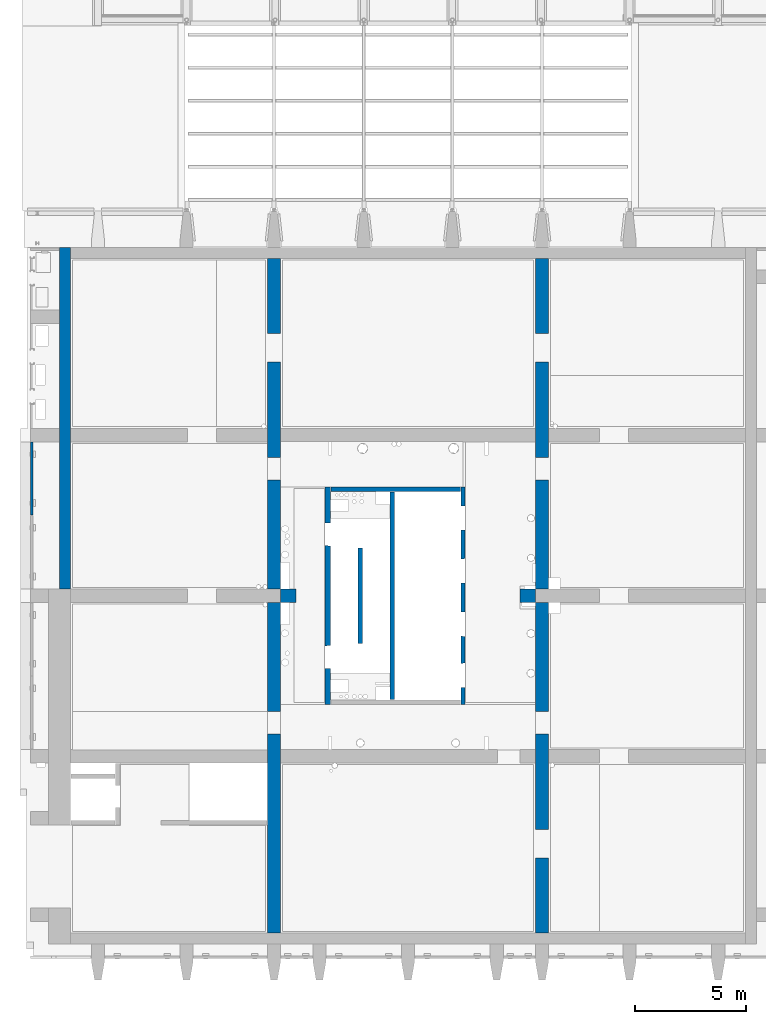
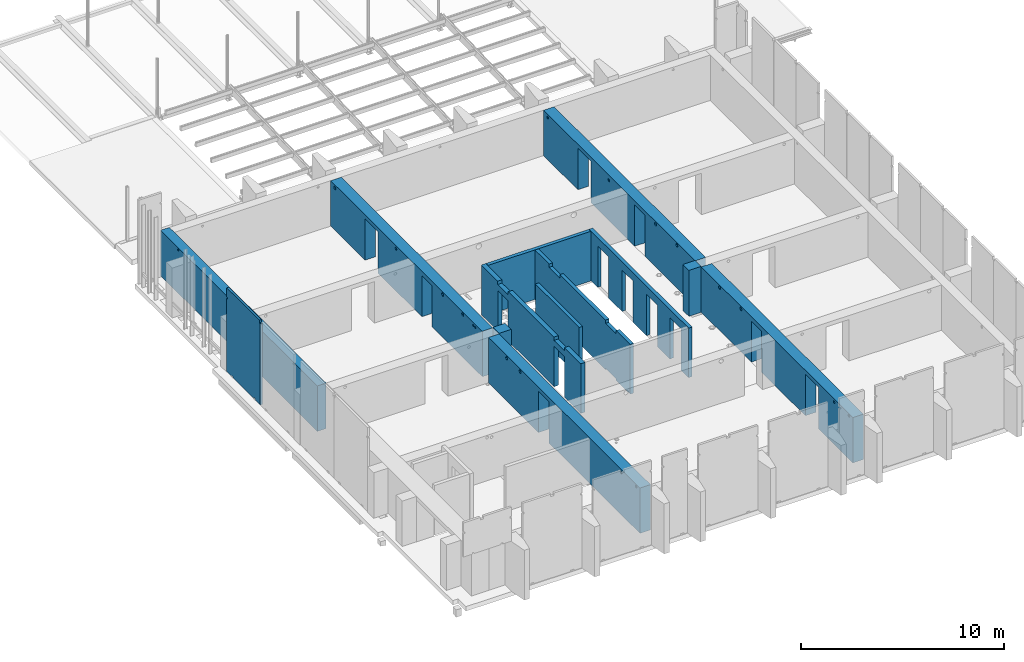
# One storey, part 27 of 31: 11 walls, 49 openings.
"""IFC2X3 building model written with IfcOpenShell, lengths in millimetres."""

from ifc_helpers import new_model, entity, si_unit, converted_unit, derived_unit, direction, frame, frame_2d, origin, origin_2d_with_axis, place, context, subcontext, project, spatial, polyline, rectangle, circle, extrude, clip, bounded_halfspace, faceted_brep, material, layer, layer_set, layer_usage, type_object, element, save


model = new_model("IFC2X3")

# Units and contexts
model_context = context("Model", 3, precision=0.01, world=origin(), true_north=direction((6.12303176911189e-17, 1.0)))
body_context = subcontext(model_context, "Body", "Model", "MODEL_VIEW")
ifc_project = project(units=[si_unit("LENGTHUNIT", "METRE", prefix="MILLI"), si_unit("AREAUNIT", "SQUARE_METRE"), si_unit("VOLUMEUNIT", "CUBIC_METRE"), converted_unit("PLANEANGLEUNIT", "DEGREE", entity("IfcRatioMeasure", 0.0174532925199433), si_unit("PLANEANGLEUNIT", "RADIAN"), dimensions=[0, 0, 0, 0, 0, 0, 0]), si_unit("MASSUNIT", "GRAM", prefix="KILO"), derived_unit("MASSDENSITYUNIT", [(si_unit("MASSUNIT", "GRAM", prefix="KILO"), 1), (si_unit("LENGTHUNIT", "METRE"), -3)]), si_unit("TIMEUNIT", "SECOND"), si_unit("FREQUENCYUNIT", "HERTZ"), si_unit("THERMODYNAMICTEMPERATUREUNIT", "DEGREE_CELSIUS"), derived_unit("THERMALTRANSMITTANCEUNIT", [(si_unit("MASSUNIT", "GRAM", prefix="KILO"), 1), (si_unit("THERMODYNAMICTEMPERATUREUNIT", "KELVIN"), -1), (si_unit("TIMEUNIT", "SECOND"), -3)]), derived_unit("VOLUMETRICFLOWRATEUNIT", [(si_unit("LENGTHUNIT", "METRE"), 3), (si_unit("TIMEUNIT", "SECOND"), -1)]), si_unit("ELECTRICCURRENTUNIT", "AMPERE"), si_unit("ELECTRICVOLTAGEUNIT", "VOLT"), si_unit("POWERUNIT", "WATT"), si_unit("FORCEUNIT", "NEWTON", prefix="KILO"), si_unit("ILLUMINANCEUNIT", "LUX"), si_unit("LUMINOUSFLUXUNIT", "LUMEN"), si_unit("LUMINOUSINTENSITYUNIT", "CANDELA"), derived_unit("USERDEFINED", [(si_unit("MASSUNIT", "GRAM", prefix="KILO"), -1), (si_unit("LENGTHUNIT", "METRE"), -2), (si_unit("TIMEUNIT", "SECOND"), 3), (si_unit("LUMINOUSFLUXUNIT", "LUMEN"), 1)]), derived_unit("LINEARVELOCITYUNIT", [(si_unit("LENGTHUNIT", "METRE"), 1), (si_unit("TIMEUNIT", "SECOND"), -1)]), si_unit("PRESSUREUNIT", "PASCAL"), derived_unit("USERDEFINED", [(si_unit("LENGTHUNIT", "METRE"), -2), (si_unit("MASSUNIT", "GRAM", prefix="KILO"), 1), (si_unit("TIMEUNIT", "SECOND"), -2)])], contexts=[model_context])

# Site, building, storey
site_placement = place(None, origin())
site = spatial("IfcSite", under=ifc_project, at=site_placement, Name="Default", CompositionType="ELEMENT")
building_placement = place(site_placement, origin())
building = spatial("IfcBuilding", under=site, at=building_placement, Name="niet gebruiken", CompositionType="ELEMENT")
storey_placement = place(building_placement, frame((0.0, 0.0, 12000.0)))
storey = spatial("IfcBuildingStorey", under=building, at=storey_placement, Name="03 derde verdieping", CompositionType="ELEMENT", Elevation=12000.0)

# Wall, openings
ifc_material_1 = material(Name="NLRS_f2_beton ihwg")
ifc_layer_1 = layer(ifc_material_1, 600.0)
ifc_layer_set_1 = layer_set([ifc_layer_1], Name="Basic Wall:NLRS_22.21_WA_beton ihwg d=600_gen")
ifc_layer_usage_1 = layer_usage(ifc_layer_set_1, "AXIS2", "NEGATIVE", 300.0)
wall_type_1 = type_object("IfcWallType", Name="Basic Wall:NLRS_22.21_WA_beton ihwg d=600_gen", PredefinedType="STANDARD", material=ifc_layer_set_1)
wall_1_placement = place(storey_placement, frame((135700.0, 32730.0, -90.0), z_axis=(0.0, 0.0, 1.0), x_axis=(0.0, -1.0, 0.0)))
wall_1 = element("IfcWallStandardCase", 1, at=wall_1_placement, inside=storey, type_object=wall_type_1, material=ifc_layer_usage_1, Name="Basic Wall:NLRS_22.21_WA_beton ihwg d=600_gen", ObjectType="Basic Wall:NLRS_22.21_WA_beton ihwg d=600_gen", context=body_context, shape_type="SweptSolid", body=[
    extrude(rectangle(XDim=30460.0000000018, YDim=600.000000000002, at=frame_2d((15230.0000000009, -7.105427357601e-13), x_axis=(-1.0, 0.0))), origin(), (0.0, 0.0, 1.0), 2729.99999999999),
])
opening_1_placement = place(storey_placement, frame((135700.0, 32730.0, -90.0), z_axis=(0.0, 0.0, 1.0), x_axis=(0.0, -1.0, 0.0)))
element("IfcOpeningElement", 2, at=opening_1_placement, cuts=wall_1, Name="Basic Wall:NLRS_22.21_WA_beton ihwg d=600_gen:1", ObjectType="Opening", context=body_context, shape_type="SweptSolid", body=[
    extrude(rectangle(XDim=2730.0, YDim=600.000000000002, at=frame_2d((-1.02318153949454e-12, 0.0), x_axis=(1.0, 0.0))), frame((15530.0, 0.0, 1365.0), z_axis=(-1.0, 0.0, 0.0), x_axis=(0.0, 0.0, 1.0)), (0.0, 0.0, 1.0), 600.0),
])
opening_2_placement = place(wall_1_placement, origin())
element("IfcOpeningElement", 3, at=opening_2_placement, cuts=wall_1, Name="Basic Wall:NLRS_22.21_WA_beton ihwg d=600_gen", ObjectType="Opening", context=body_context, shape_type="SweptSolid", body=[
    extrude(rectangle(XDim=2475.0, YDim=1016.0, at=origin_2d_with_axis()), frame((20972.0, -300.0, 1237.5), z_axis=(0.0, 1.0, 0.0), x_axis=(0.0, 0.0, -1.0)), (0.0, 0.0, 1.0), 600.000000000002),
])
opening_3_placement = place(wall_1_placement, origin())
element("IfcOpeningElement", 4, at=opening_3_placement, cuts=wall_1, Name="Basic Wall:NLRS_22.21_WA_beton ihwg d=600_gen", ObjectType="Opening", context=body_context, shape_type="SweptSolid", body=[
    extrude(rectangle(XDim=2475.0, YDim=1016.0, at=origin_2d_with_axis()), frame((9488.0, -300.0, 1237.5), z_axis=(0.0, 1.0, 0.0), x_axis=(0.0, 0.0, -1.0)), (0.0, 0.0, 1.0), 600.000000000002),
])
opening_4_placement = place(wall_1_placement, origin())
element("IfcOpeningElement", 5, at=opening_4_placement, cuts=wall_1, Name="Basic Wall:NLRS_22.21_WA_beton ihwg d=600_gen", ObjectType="Opening", context=body_context, shape_type="SweptSolid", body=[
    extrude(rectangle(XDim=2490.0, YDim=1300.0, at=frame_2d((0.0, 0.0), x_axis=(0.0, 1.0))), frame((4030.0, -300.0, 1245.0), z_axis=(0.0, 1.0, 0.0), x_axis=(1.0, 0.0, 0.0)), (0.0, 0.0, 1.0), 600.000000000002),
])
opening_5_placement = place(wall_1_placement, origin())
element("IfcOpeningElement", 6, at=opening_5_placement, cuts=wall_1, Name="Basic Wall:NLRS_22.21_WA_beton ihwg d=600_gen", ObjectType="Opening", context=body_context, shape_type="SweptSolid", body=[
    extrude(circle(Radius=80.0, at=origin_2d_with_axis()), frame((6430.0, -300.0, 2540.0), z_axis=(0.0, 1.0, 0.0), x_axis=(-1.0, 0.0, 0.0)), (0.0, 0.0, 1.0), 600.000000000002),
])
opening_6_placement = place(wall_1_placement, origin())
element("IfcOpeningElement", 7, at=opening_6_placement, cuts=wall_1, Name="Basic Wall:NLRS_22.21_WA_beton ihwg d=600_gen", ObjectType="Opening", context=body_context, shape_type="SweptSolid", body=[
    extrude(circle(Radius=100.0, at=origin_2d_with_axis()), frame((405.0, -300.0, 2540.0), z_axis=(0.0, 1.0, 0.0), x_axis=(-1.0, 0.0, 0.0)), (0.0, 0.0, 1.0), 600.000000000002),
])
opening_7_placement = place(wall_1_placement, origin())
element("IfcOpeningElement", 8, at=opening_7_placement, cuts=wall_1, Name="Basic Wall:NLRS_22.21_WA_beton ihwg d=600_gen", ObjectType="Opening", context=body_context, shape_type="SweptSolid", body=[
    extrude(circle(Radius=80.0, at=origin_2d_with_axis()), frame((30070.0, -300.0, 2590.0), z_axis=(0.0, 1.0, 0.0), x_axis=(-1.0, 0.0, 0.0)), (0.0, 0.0, 1.0), 600.000000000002),
])
opening_8_placement = place(wall_1_placement, origin())
element("IfcOpeningElement", 9, at=opening_8_placement, cuts=wall_1, Name="Basic Wall:NLRS_22.21_WA_beton ihwg d=600_gen", ObjectType="Opening", context=body_context, shape_type="SweptSolid", body=[
    extrude(circle(Radius=80.0, at=origin_2d_with_axis()), frame((28619.9611532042, -300.0, 2540.0), z_axis=(0.0, 1.0, 0.0), x_axis=(-1.0, 0.0, 0.0)), (0.0, 0.0, 1.0), 600.000000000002),
])
opening_9_placement = place(wall_1_placement, origin())
element("IfcOpeningElement", 10, at=opening_9_placement, cuts=wall_1, Name="Basic Wall:NLRS_22.21_WA_beton ihwg d=600_gen", ObjectType="Opening", context=body_context, shape_type="SweptSolid", body=[
    extrude(circle(Radius=100.0, at=origin_2d_with_axis()), frame((18650.0, -300.0, 2570.0), z_axis=(0.0, 1.0, 0.0), x_axis=(-1.0, 0.0, 0.0)), (0.0, 0.0, 1.0), 600.000000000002),
])
opening_10_placement = place(wall_1_placement, origin())
element("IfcOpeningElement", 11, at=opening_10_placement, cuts=wall_1, Name="Basic Wall:NLRS_22.21_WA_beton ihwg d=600_gen", ObjectType="Opening", context=body_context, shape_type="SweptSolid", body=[
    extrude(circle(Radius=100.0, at=origin_2d_with_axis()), frame((17335.0000398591, -300.0, 2570.0), z_axis=(0.0, 1.0, 0.0), x_axis=(-1.0, 0.0, 0.0)), (0.0, 0.0, 1.0), 600.000000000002),
])
opening_11_placement = place(wall_1_placement, origin())
element("IfcOpeningElement", 12, at=opening_11_placement, cuts=wall_1, Name="Basic Wall:NLRS_22.21_WA_beton ihwg d=600_gen", ObjectType="Opening", context=body_context, shape_type="SweptSolid", body=[
    extrude(circle(Radius=62.5, at=origin_2d_with_axis()), frame((14240.0, -300.0, 2540.0), z_axis=(0.0, 1.0, 0.0), x_axis=(-1.0, 0.0, 0.0)), (0.0, 0.0, 1.0), 600.000000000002),
])
opening_12_placement = place(wall_1_placement, origin())
element("IfcOpeningElement", 13, at=opening_12_placement, cuts=wall_1, Name="Basic Wall:NLRS_22.21_WA_beton ihwg d=600_gen", ObjectType="Opening", context=body_context, shape_type="SweptSolid", body=[
    extrude(circle(Radius=62.5, at=origin_2d_with_axis()), frame((14040.0, -300.0, 2540.0), z_axis=(0.0, 1.0, 0.0), x_axis=(-1.0, 0.0, 0.0)), (0.0, 0.0, 1.0), 600.000000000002),
])
opening_13_placement = place(wall_1_placement, origin())
element("IfcOpeningElement", 14, at=opening_13_placement, cuts=wall_1, Name="Basic Wall:NLRS_22.21_WA_beton ihwg d=600_gen", ObjectType="Opening", context=body_context, shape_type="SweptSolid", body=[
    extrude(circle(Radius=100.0, at=origin_2d_with_axis()), frame((13000.0, -300.0, 2570.0), z_axis=(0.0, 1.0, 0.0), x_axis=(-1.0, 0.0, 0.0)), (0.0, 0.0, 1.0), 600.000000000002),
])
opening_14_placement = place(wall_1_placement, origin())
element("IfcOpeningElement", 15, at=opening_14_placement, cuts=wall_1, Name="Basic Wall:NLRS_22.21_WA_beton ihwg d=600_gen", ObjectType="Opening", context=body_context, shape_type="SweptSolid", body=[
    extrude(circle(Radius=100.0, at=origin_2d_with_axis()), frame((11030.0, -300.0, 2570.0), z_axis=(0.0, 1.0, 0.0), x_axis=(-1.0, 0.0, 0.0)), (0.0, 0.0, 1.0), 600.000000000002),
])

ifc_layer_usage_2 = layer_usage(ifc_layer_set_1, "AXIS2", "POSITIVE", -300.0)
wall_2_placement = place(storey_placement, frame((147800.0, 32730.0, -90.0), z_axis=(0.0, 0.0, 1.0), x_axis=(0.0, -1.0, 0.0)))
wall_2 = element("IfcWallStandardCase", 16, at=wall_2_placement, inside=storey, type_object=wall_type_1, material=ifc_layer_usage_2, Name="Basic Wall:NLRS_22.21_WA_beton ihwg d=600_gen", ObjectType="Basic Wall:NLRS_22.21_WA_beton ihwg d=600_gen", context=body_context, shape_type="SweptSolid", body=[
    extrude(rectangle(XDim=30460.0000000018, YDim=600.000000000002, at=frame_2d((15230.0000000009, -7.105427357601e-13), x_axis=(-1.0, 0.0))), origin(), (0.0, 0.0, 1.0), 2729.99999999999),
])
opening_15_placement = place(storey_placement, frame((147800.0, 32730.0, -90.0), z_axis=(0.0, 0.0, 1.0), x_axis=(0.0, -1.0, 0.0)))
element("IfcOpeningElement", 17, at=opening_15_placement, cuts=wall_2, Name="Basic Wall:NLRS_22.21_WA_beton ihwg d=600_gen:1", ObjectType="Opening", context=body_context, shape_type="SweptSolid", body=[
    extrude(rectangle(XDim=2730.0, YDim=600.000000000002, at=frame_2d((-1.02318153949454e-12, 0.0), x_axis=(1.0, 0.0))), frame((15530.0, 0.0, 1365.0), z_axis=(-1.0, 0.0, 0.0), x_axis=(0.0, 0.0, 1.0)), (0.0, 0.0, 1.0), 600.0),
])
opening_16_placement = place(wall_2_placement, origin())
element("IfcOpeningElement", 18, at=opening_16_placement, cuts=wall_2, Name="Basic Wall:NLRS_22.21_WA_beton ihwg d=600_gen", ObjectType="Opening", context=body_context, shape_type="SweptSolid", body=[
    extrude(rectangle(XDim=2490.00000000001, YDim=1299.99999999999, at=frame_2d((-2.1600499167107e-12, 1.02318153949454e-12), x_axis=(0.0, 1.0))), frame((4030.0, -300.0, 1245.0), z_axis=(0.0, 1.0, 0.0), x_axis=(1.0, 0.0, 0.0)), (0.0, 0.0, 1.0), 600.000000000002),
])
opening_17_placement = place(wall_2_placement, origin())
element("IfcOpeningElement", 19, at=opening_17_placement, cuts=wall_2, Name="Basic Wall:NLRS_22.21_WA_beton ihwg d=600_gen", ObjectType="Opening", context=body_context, shape_type="SweptSolid", body=[
    extrude(rectangle(XDim=2490.00000000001, YDim=1299.99999999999, at=frame_2d((1.02318153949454e-12, 1.08002495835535e-12), x_axis=(1.0, 0.0))), frame((26430.0, -300.0, 1245.0), z_axis=(0.0, 1.0, 0.0), x_axis=(0.0, 0.0, -1.0)), (0.0, 0.0, 1.0), 600.000000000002),
])
opening_18_placement = place(wall_2_placement, origin())
element("IfcOpeningElement", 20, at=opening_18_placement, cuts=wall_2, Name="Basic Wall:NLRS_22.21_WA_beton ihwg d=600_gen", ObjectType="Opening", context=body_context, shape_type="SweptSolid", body=[
    extrude(rectangle(XDim=2475.00000000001, YDim=1015.99999999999, at=frame_2d((-1.13686837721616e-12, -1.10844666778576e-12), x_axis=(1.0, 0.0))), frame((20972.0, -300.0, 1237.5), z_axis=(0.0, 1.0, 0.0), x_axis=(0.0, 0.0, -1.0)), (0.0, 0.0, 1.0), 600.000000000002),
])
opening_19_placement = place(wall_2_placement, origin())
element("IfcOpeningElement", 21, at=opening_19_placement, cuts=wall_2, Name="Basic Wall:NLRS_22.21_WA_beton ihwg d=600_gen", ObjectType="Opening", context=body_context, shape_type="SweptSolid", body=[
    extrude(rectangle(XDim=2475.00000000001, YDim=1015.99999999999, at=frame_2d((-1.13686837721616e-12, 0.0), x_axis=(1.0, 0.0))), frame((9488.0, -300.0, 1237.5), z_axis=(0.0, 1.0, 0.0), x_axis=(0.0, 0.0, -1.0)), (0.0, 0.0, 1.0), 600.000000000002),
])
opening_20_placement = place(wall_2_placement, origin())
element("IfcOpeningElement", 22, at=opening_20_placement, cuts=wall_2, Name="Basic Wall:NLRS_22.21_WA_beton ihwg d=600_gen", ObjectType="Opening", context=body_context, shape_type="SweptSolid", body=[
    extrude(circle(Radius=100.0, at=origin_2d_with_axis()), frame((11030.0, -300.0, 2570.0), z_axis=(0.0, 1.0, 0.0), x_axis=(-1.0, 0.0, 0.0)), (0.0, 0.0, 1.0), 600.000000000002),
])
opening_21_placement = place(wall_2_placement, origin())
element("IfcOpeningElement", 23, at=opening_21_placement, cuts=wall_2, Name="Basic Wall:NLRS_22.21_WA_beton ihwg d=600_gen", ObjectType="Opening", context=body_context, shape_type="SweptSolid", body=[
    extrude(circle(Radius=100.0, at=origin_2d_with_axis()), frame((13125.0011364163, -300.0, 2569.99998988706), z_axis=(0.0, 1.0, 0.0), x_axis=(-1.0, 0.0, 0.0)), (0.0, 0.0, 1.0), 600.000000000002),
])
opening_22_placement = place(wall_2_placement, origin())
element("IfcOpeningElement", 24, at=opening_22_placement, cuts=wall_2, Name="Basic Wall:NLRS_22.21_WA_beton ihwg d=600_gen", ObjectType="Opening", context=body_context, shape_type="SweptSolid", body=[
    extrude(circle(Radius=100.0, at=origin_2d_with_axis()), frame((17335.0, -300.0, 2569.99998988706), z_axis=(0.0, 1.0, 0.0), x_axis=(-1.0, 0.0, 0.0)), (0.0, 0.0, 1.0), 600.000000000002),
])
opening_23_placement = place(wall_2_placement, origin())
element("IfcOpeningElement", 25, at=opening_23_placement, cuts=wall_2, Name="Basic Wall:NLRS_22.21_WA_beton ihwg d=600_gen", ObjectType="Opening", context=body_context, shape_type="SweptSolid", body=[
    extrude(circle(Radius=100.0, at=origin_2d_with_axis()), frame((19430.0, -300.0, 2570.0), z_axis=(0.0, 1.0, 0.0), x_axis=(-1.0, 0.0, 0.0)), (0.0, 0.0, 1.0), 600.000000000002),
])
opening_24_placement = place(wall_2_placement, origin())
element("IfcOpeningElement", 26, at=opening_24_placement, cuts=wall_2, Name="Basic Wall:NLRS_22.21_WA_beton ihwg d=600_gen", ObjectType="Opening", context=body_context, shape_type="SweptSolid", body=[
    extrude(circle(Radius=80.0, at=origin_2d_with_axis()), frame((28620.0, -300.0, 2540.0), z_axis=(0.0, 1.0, 0.0), x_axis=(-1.0, 0.0, 0.0)), (0.0, 0.0, 1.0), 600.000000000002),
])
opening_25_placement = place(wall_2_placement, origin())
element("IfcOpeningElement", 27, at=opening_25_placement, cuts=wall_2, Name="Basic Wall:NLRS_22.21_WA_beton ihwg d=600_gen", ObjectType="Opening", context=body_context, shape_type="SweptSolid", body=[
    extrude(circle(Radius=80.0, at=origin_2d_with_axis()), frame((6430.0, -300.0, 2420.0), z_axis=(0.0, 1.0, 0.0), x_axis=(-1.0, 0.0, 0.0)), (0.0, 0.0, 1.0), 600.000000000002),
])
opening_26_placement = place(wall_2_placement, origin())
element("IfcOpeningElement", 28, at=opening_26_placement, cuts=wall_2, Name="Basic Wall:NLRS_22.21_WA_beton ihwg d=600_gen", ObjectType="Opening", context=body_context, shape_type="SweptSolid", body=[
    extrude(circle(Radius=80.0, at=origin_2d_with_axis()), frame((404.973992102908, -300.0, 2540.0), z_axis=(0.0, 1.0, 0.0), x_axis=(-1.0, 0.0, 0.0)), (0.0, 0.0, 1.0), 600.000000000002),
])
opening_27_placement = place(wall_2_placement, origin())
element("IfcOpeningElement", 29, at=opening_27_placement, cuts=wall_2, Name="Basic Wall:NLRS_22.21_WA_beton ihwg d=600_gen", ObjectType="Opening", context=body_context, shape_type="SweptSolid", body=[
    extrude(circle(Radius=80.0, at=origin_2d_with_axis()), frame((30075.0, -300.0, 2590.0), z_axis=(0.0, 1.0, 0.0), x_axis=(-1.0, 0.0, 0.0)), (0.0, 0.0, 1.0), 600.000000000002),
])

# Walls
ifc_layer_usage_3 = layer_usage(ifc_layer_set_1, "AXIS2", "NEGATIVE", 300.0)
wall_3_placement = place(storey_placement, frame((146800.0, 17500.0, -90.0)))
element("IfcWallStandardCase", 30, at=wall_3_placement, inside=storey, type_object=wall_type_1, material=ifc_layer_usage_3, Name="Basic Wall:NLRS_22.21_WA_beton ihwg d=600_gen", ObjectType="Basic Wall:NLRS_22.21_WA_beton ihwg d=600_gen", context=body_context, shape_type="SweptSolid", body=[
    extrude(rectangle(XDim=700.000000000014, YDim=600.000000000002, at=frame_2d((350.000000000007, 1.13686837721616e-13), x_axis=(-1.0, 0.0))), origin(), (0.0, 0.0, 1.0), 2760.0),
])
ifc_layer_usage_4 = layer_usage(ifc_layer_set_1, "AXIS2", "NEGATIVE", 300.0)
wall_4_placement = place(storey_placement, frame((136000.0, 17500.0, -90.0)))
element("IfcWallStandardCase", 31, at=wall_4_placement, inside=storey, type_object=wall_type_1, material=ifc_layer_usage_4, Name="Basic Wall:NLRS_22.21_WA_beton ihwg d=600_gen", ObjectType="Basic Wall:NLRS_22.21_WA_beton ihwg d=600_gen", context=body_context, shape_type="Clipping", body=[
    clip(extrude(rectangle(XDim=700.000000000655, YDim=599.999999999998, at=frame_2d((350.000000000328, 1.13686837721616e-13), x_axis=(-1.0, 0.0))), origin(), (0.0, 0.0, 1.0), 2760.0), bounded_halfspace(frame((600.0, -300.0, 2760.0), z_axis=(0.0, 0.0, -1.0), x_axis=(0.0, -1.0, 0.0)), True, frame((600.0, -300.0, 2760.0), z_axis=(0.0, 0.0, -1.0), x_axis=(0.0, -1.0, 0.0)), polyline([(0.0, 0.0), (0.0, 200.0), (0.0, 600.0), (-600.0, 600.0), (-600.0, 200.0), (-600.0, 0.0), (-600.0, -100.0), (0.0, -100.0), (0.0, 0.0)]))),
])

# Wall, openings
ifc_material_2 = material(Name="NLRS_f2_beton prefab")
ifc_layer_2 = layer(ifc_material_2, 200.0)
ifc_layer_set_2 = layer_set([ifc_layer_2], Name="Basic Wall:NLRS_22.21_WA_beton prefab d=200_gen")
ifc_layer_usage_5 = layer_usage(ifc_layer_set_2, "AXIS2", "NEGATIVE", 100.0)
wall_type_2 = type_object("IfcWallType", Name="Basic Wall:NLRS_22.21_WA_beton prefab d=200_gen", PredefinedType="STANDARD", material=ifc_layer_set_2)
wall_5_placement = place(storey_placement, frame((144230.0, 22400.0, -50.0), z_axis=(0.0, 0.0, 1.0), x_axis=(0.0, -1.0, 0.0)))
wall_5 = element("IfcWallStandardCase", 32, at=wall_5_placement, inside=storey, type_object=wall_type_2, material=ifc_layer_usage_5, Name="Basic Wall:NLRS_22.21_WA_beton prefab d=200_gen", ObjectType="Basic Wall:NLRS_22.21_WA_beton prefab d=200_gen", context=body_context, shape_type="SweptSolid", body=[
    extrude(rectangle(XDim=9800.0, YDim=199.999999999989, at=frame_2d((4900.0, -3.69482222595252e-13), x_axis=(-1.0, 0.0))), origin(), (0.0, 0.0, 1.0), 2980.0),
])
opening_28_placement = place(wall_5_placement, frame((9047.0, -100.0, 0.0)))
element("IfcOpeningElement", 33, at=opening_28_placement, cuts=wall_5, Name="Basic Wall:NLRS_22.21_WA_beton prefab d=200_gen", ObjectType="Opening", context=body_context, shape_type="Brep", body=[
    faceted_brep([(-1104.0, 200.0, 2502.0), (-1104.0, 200.0, 0.0), (-1092.0, 0.0, 0.0), (-1092.0, 0.0, 2490.0), (0.0, 200.0, 0.0), (-12.0, 0.0, 0.0), (-12.0, 0.0, 2490.0), (0.0, 200.0, 2502.0)], [[[0, 1, 2, 3]], [[1, 4, 5, 2]], [[6, 3, 2, 5]], [[7, 4, 1, 0]], [[7, 0, 3, 6]], [[4, 7, 6, 5]]]),
])
opening_29_placement = place(wall_5_placement, frame((6737.0, -100.0, 0.0)))
element("IfcOpeningElement", 34, at=opening_29_placement, cuts=wall_5, Name="Basic Wall:NLRS_22.21_WA_beton prefab d=200_gen", ObjectType="Opening", context=body_context, shape_type="Brep", body=[
    faceted_brep([(-1104.0, 200.0, 2502.0), (-1104.0, 200.0, 0.0), (-1092.0, 0.0, 0.0), (-1092.0, 0.0, 2490.0), (0.0, 200.0, 0.0), (-12.0, 0.0, 0.0), (-12.0, 0.0, 2490.0), (0.0, 200.0, 2502.0)], [[[0, 1, 2, 3]], [[1, 4, 5, 2]], [[6, 3, 2, 5]], [[7, 4, 1, 0]], [[7, 0, 3, 6]], [[4, 7, 6, 5]]]),
])
opening_30_placement = place(wall_5_placement, frame((4332.0, -100.0, 0.0)))
element("IfcOpeningElement", 35, at=opening_30_placement, cuts=wall_5, Name="Basic Wall:NLRS_22.21_WA_beton prefab d=200_gen", ObjectType="Opening", context=body_context, shape_type="Brep", body=[
    faceted_brep([(-1104.0, 200.0, 2502.0), (-1104.0, 200.0, 0.0), (-1092.0, 0.0, 0.0), (-1092.0, 0.0, 2490.0), (0.0, 200.0, 0.0), (-12.0, 0.0, 0.0), (-12.0, 0.0, 2490.0), (0.0, 200.0, 2502.0)], [[[0, 1, 2, 3]], [[1, 4, 5, 2]], [[6, 3, 2, 5]], [[7, 4, 1, 0]], [[7, 0, 3, 6]], [[4, 7, 6, 5]]]),
])
opening_31_placement = place(wall_5_placement, frame((1942.0, -100.0, 0.0)))
element("IfcOpeningElement", 36, at=opening_31_placement, cuts=wall_5, Name="Basic Wall:NLRS_22.21_WA_beton prefab d=200_gen", ObjectType="Opening", context=body_context, shape_type="Brep", body=[
    faceted_brep([(-1104.0, 200.0, 2502.0), (-1104.0, 200.0, 0.0), (-1092.0, 0.0, 0.0), (-1092.0, 0.0, 2490.0), (0.0, 200.0, 0.0), (-12.0, 0.0, 0.0), (-12.0, 0.0, 2490.0), (0.0, 200.0, 2502.0)], [[[0, 1, 2, 3]], [[1, 4, 5, 2]], [[6, 3, 2, 5]], [[7, 4, 1, 0]], [[7, 0, 3, 6]], [[4, 7, 6, 5]]]),
])

ifc_layer_usage_6 = layer_usage(ifc_layer_set_2, "AXIS2", "NEGATIVE", 100.0)
wall_6_placement = place(storey_placement, frame((141030.0, 22180.0, -50.0), z_axis=(0.0, 0.0, 1.0), x_axis=(0.0, -1.0, 0.0)))
wall_6 = element("IfcWallStandardCase", 37, at=wall_6_placement, inside=storey, type_object=wall_type_2, material=ifc_layer_usage_6, Name="Basic Wall:NLRS_22.21_WA_beton prefab d=200_gen", ObjectType="Basic Wall:NLRS_22.21_WA_beton prefab d=200_gen", context=body_context, shape_type="SweptSolid", body=[
    extrude(rectangle(XDim=9360.0, YDim=199.999999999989, at=frame_2d((4680.0, -2.8421709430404e-14), x_axis=(-1.0, 0.0))), origin(), (0.0, 0.0, 1.0), 2980.0),
])
opening_32_placement = place(wall_6_placement, origin())
element("IfcOpeningElement", 38, at=opening_32_placement, cuts=wall_6, Name="Basic Wall:NLRS_22.21_WA_beton prefab d=200_gen", ObjectType="Opening", context=body_context, shape_type="SweptSolid", body=[
    extrude(rectangle(XDim=70.0000000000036, YDim=1044.0, at=frame_2d((-1.08357767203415e-12, 0.0), x_axis=(1.0, 0.0))), frame((7452.0, -100.0, 35.0), z_axis=(0.0, 1.0, 0.0), x_axis=(0.0, 0.0, -1.0)), (0.0, 0.0, 1.0), 199.999999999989),
])
opening_33_placement = place(wall_6_placement, origin())
element("IfcOpeningElement", 39, at=opening_33_placement, cuts=wall_6, Name="Basic Wall:NLRS_22.21_WA_beton prefab d=200_gen", ObjectType="Opening", context=body_context, shape_type="SweptSolid", body=[
    extrude(rectangle(XDim=199.999999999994, YDim=1044.0, at=frame_2d((0.0, 2.1600499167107e-12), x_axis=(1.0, 0.0))), frame((1908.0, -100.0, 2880.0), z_axis=(0.0, 1.0, 0.0), x_axis=(0.0, 0.0, -1.0)), (0.0, 0.0, 1.0), 199.999999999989),
])
opening_34_placement = place(wall_6_placement, origin())
element("IfcOpeningElement", 40, at=opening_34_placement, cuts=wall_6, Name="Basic Wall:NLRS_22.21_WA_beton prefab d=200_gen", ObjectType="Opening", context=body_context, shape_type="SweptSolid", body=[
    extrude(rectangle(XDim=199.999999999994, YDim=1044.0, at=origin_2d_with_axis()), frame((7452.0, -100.0, 2880.0), z_axis=(0.0, 1.0, 0.0), x_axis=(0.0, 0.0, -1.0)), (0.0, 0.0, 1.0), 199.999999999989),
])
opening_35_placement = place(wall_6_placement, origin())
element("IfcOpeningElement", 41, at=opening_35_placement, cuts=wall_6, Name="Basic Wall:NLRS_22.21_WA_beton prefab d=200_gen", ObjectType="Opening", context=body_context, shape_type="SweptSolid", body=[
    extrude(rectangle(XDim=70.0000000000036, YDim=1044.0, at=frame_2d((-1.08357767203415e-12, 2.1600499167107e-12), x_axis=(1.0, 0.0))), frame((1908.0, -100.0, 35.0), z_axis=(0.0, 1.0, 0.0), x_axis=(0.0, 0.0, -1.0)), (0.0, 0.0, 1.0), 199.999999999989),
])
opening_36_placement = place(wall_6_placement, origin())
element("IfcOpeningElement", 42, at=opening_36_placement, cuts=wall_6, Name="Basic Wall:NLRS_22.21_WA_beton prefab d=200_gen", ObjectType="Recess", context=body_context, shape_type="SweptSolid", body=[
    extrude(rectangle(XDim=399.999999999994, YDim=280.000000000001, at=frame_2d((2.1600499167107e-12, 1.08002495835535e-12), x_axis=(0.0, 1.0))), frame((770.0, -60.0, 438.0), z_axis=(0.0, 1.0, 0.0), x_axis=(1.0, 0.0, 0.0)), (0.0, 0.0, 1.0), 159.999999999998),
])
opening_37_placement = place(wall_6_placement, origin())
element("IfcOpeningElement", 43, at=opening_37_placement, cuts=wall_6, Name="Basic Wall:NLRS_22.21_WA_beton prefab d=200_gen", ObjectType="Recess", context=body_context, shape_type="SweptSolid", body=[
    extrude(rectangle(XDim=399.999999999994, YDim=280.000000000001, at=frame_2d((2.1600499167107e-12, -1.08002495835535e-12), x_axis=(0.0, 1.0))), frame((1570.0, -60.0, 438.0), z_axis=(0.0, 1.0, 0.0), x_axis=(1.0, 0.0, 0.0)), (0.0, 0.0, 1.0), 159.999999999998),
])
opening_38_placement = place(wall_6_placement, origin())
element("IfcOpeningElement", 44, at=opening_38_placement, cuts=wall_6, Name="Basic Wall:NLRS_22.21_WA_beton prefab d=200_gen", ObjectType="Recess", context=body_context, shape_type="SweptSolid", body=[
    extrude(rectangle(XDim=399.999999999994, YDim=279.999999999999, at=frame_2d((1.08002495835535e-12, 1.08002495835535e-12), x_axis=(0.0, 1.0))), frame((3160.0, -60.0, 438.0), z_axis=(0.0, 1.0, 0.0), x_axis=(1.0, 0.0, 0.0)), (0.0, 0.0, 1.0), 159.999999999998),
])
opening_39_placement = place(wall_6_placement, origin())
element("IfcOpeningElement", 45, at=opening_39_placement, cuts=wall_6, Name="Basic Wall:NLRS_22.21_WA_beton prefab d=200_gen", ObjectType="Recess", context=body_context, shape_type="SweptSolid", body=[
    extrude(rectangle(XDim=399.999999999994, YDim=279.999999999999, at=frame_2d((-1.08002495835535e-12, 1.08002495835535e-12), x_axis=(0.0, 1.0))), frame((3960.0, -60.0, 438.0), z_axis=(0.0, 1.0, 0.0), x_axis=(1.0, 0.0, 0.0)), (0.0, 0.0, 1.0), 159.999999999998),
])

# Walls
ifc_layer_usage_7 = layer_usage(ifc_layer_set_2, "AXIS2", "NEGATIVE", 100.0)
wall_7_placement = place(storey_placement, frame((139590.0, 19660.0, -50.0), z_axis=(0.0, 0.0, 1.0), x_axis=(0.0, -1.0, 0.0)))
element("IfcWallStandardCase", 46, at=wall_7_placement, inside=storey, type_object=wall_type_2, material=ifc_layer_usage_7, Name="Basic Wall:NLRS_22.21_WA_beton prefab d=200_gen", ObjectType="Basic Wall:NLRS_22.21_WA_beton prefab d=200_gen", context=body_context, shape_type="SweptSolid", body=[
    extrude(rectangle(XDim=4320.00000000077, YDim=199.999999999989, at=frame_2d((2160.00000000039, 0.0), x_axis=(-1.0, 0.0))), origin(), (0.0, 0.0, 1.0), 2980.0),
])
ifc_layer_usage_8 = layer_usage(ifc_layer_set_2, "AXIS2", "NEGATIVE", 100.0)
wall_8_placement = place(storey_placement, frame((138270.0, 22300.0, -50.0)))
element("IfcWallStandardCase", 47, at=wall_8_placement, inside=storey, type_object=wall_type_2, material=ifc_layer_usage_8, Name="Basic Wall:NLRS_22.21_WA_beton prefab d=200_gen", ObjectType="Basic Wall:NLRS_22.21_WA_beton prefab d=200_gen", context=body_context, shape_type="SweptSolid", body=[
    extrude(rectangle(XDim=5840.00000000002, YDim=199.999999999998, at=frame_2d((2920.00000000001, -7.60280727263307e-13), x_axis=(-1.0, 0.0))), origin(), (0.0, 0.0, 1.0), 2980.0),
])

# Wall, openings
ifc_layer_3 = layer(ifc_material_2, 250.0)
ifc_layer_set_3 = layer_set([ifc_layer_3], Name="Basic Wall:NLRS_22.21_WA_beton prefab d=250_gen")
ifc_layer_usage_9 = layer_usage(ifc_layer_set_3, "AXIS2", "NEGATIVE", 125.0)
wall_type_3 = type_object("IfcWallType", Name="Basic Wall:NLRS_22.21_WA_beton prefab d=250_gen", PredefinedType="STANDARD", material=ifc_layer_set_3)
wall_9_placement = place(storey_placement, frame((138125.0, 22400.0, -50.0), z_axis=(0.0, 0.0, 1.0), x_axis=(0.0, -1.0, 0.0)))
wall_9 = element("IfcWallStandardCase", 48, at=wall_9_placement, inside=storey, type_object=wall_type_3, material=ifc_layer_usage_9, Name="Basic Wall:NLRS_22.21_WA_beton prefab d=250_gen", ObjectType="Basic Wall:NLRS_22.21_WA_beton prefab d=250_gen", context=body_context, shape_type="SweptSolid", body=[
    extrude(rectangle(XDim=9800.0, YDim=250.000000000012, at=frame_2d((4900.0, 3.69482222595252e-13), x_axis=(-1.0, 0.0))), origin(), (0.0, 0.0, 1.0), 2980.00000000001),
])
opening_40_placement = place(wall_9_placement, origin())
element("IfcOpeningElement", 49, at=opening_40_placement, cuts=wall_9, Name="Basic Wall:NLRS_22.21_WA_beton prefab d=250_gen", ObjectType="Opening", context=body_context, shape_type="SweptSolid", body=[
    extrude(rectangle(XDim=200.0, YDim=1044.0, at=frame_2d((1.08713038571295e-12, -2.1600499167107e-12), x_axis=(1.0, 0.0))), frame((7672.0, -125.0, 2880.0), z_axis=(0.0, 1.0, 0.0), x_axis=(0.0, 0.0, -1.0)), (0.0, 0.0, 1.0), 250.000000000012),
])
opening_41_placement = place(wall_9_placement, origin())
element("IfcOpeningElement", 50, at=opening_41_placement, cuts=wall_9, Name="Basic Wall:NLRS_22.21_WA_beton prefab d=250_gen", ObjectType="Opening", context=body_context, shape_type="SweptSolid", body=[
    extrude(rectangle(XDim=200.0, YDim=1044.0, at=frame_2d((1.08713038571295e-12, 2.1600499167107e-12), x_axis=(1.0, 0.0))), frame((2128.0, -125.0, 2880.0), z_axis=(0.0, 1.0, 0.0), x_axis=(0.0, 0.0, -1.0)), (0.0, 0.0, 1.0), 250.000000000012),
])
opening_42_placement = place(wall_9_placement, frame((8195.0, -125.0, 0.0)))
element("IfcOpeningElement", 51, at=opening_42_placement, cuts=wall_9, Name="Basic Wall:NLRS_22.21_WA_beton prefab d=250_gen", ObjectType="Opening", context=body_context, shape_type="Brep", body=[
    faceted_brep([(-1046.0, 250.0, 2450.0), (-1046.0, 250.0, 0.0), (-1031.0, 0.0, 0.0), (-1031.0, 0.0, 2435.0), (0.0, 250.0, 0.0), (-15.0, 0.0, 0.0), (-15.0, 0.0, 2435.0), (0.0, 250.0, 2450.0)], [[[0, 1, 2, 3]], [[1, 4, 5, 2]], [[6, 3, 2, 5]], [[7, 4, 1, 0]], [[7, 0, 3, 6]], [[4, 7, 6, 5]]]),
])
opening_43_placement = place(wall_9_placement, frame((2651.0, -125.0, 0.0)))
element("IfcOpeningElement", 52, at=opening_43_placement, cuts=wall_9, Name="Basic Wall:NLRS_22.21_WA_beton prefab d=250_gen", ObjectType="Opening", context=body_context, shape_type="Brep", body=[
    faceted_brep([(-1046.0, 250.0, 2450.0), (-1046.0, 250.0, 0.0), (-1031.0, 0.0, 0.0), (-1031.0, 0.0, 2435.0), (0.0, 250.0, 0.0), (-15.0, 0.0, 0.0), (-15.0, 0.0, 2435.0), (0.0, 250.0, 2450.0)], [[[0, 1, 2, 3]], [[1, 4, 5, 2]], [[6, 3, 2, 5]], [[7, 4, 1, 0]], [[7, 0, 3, 6]], [[4, 7, 6, 5]]]),
])

ifc_layer_4 = layer(ifc_material_1, 500.0)
ifc_layer_set_4 = layer_set([ifc_layer_4], Name="Basic Wall:NLRS_21.21_WA_beton ihwg d=500_gen")
ifc_layer_usage_10 = layer_usage(ifc_layer_set_4, "AXIS2", "NEGATIVE", 250.0)
wall_type_4 = type_object("IfcWallType", Name="Basic Wall:NLRS_21.21_WA_beton ihwg d=500_gen", PredefinedType="STANDARD", material=ifc_layer_set_4)
wall_10_placement = place(storey_placement, frame((126270.0, 17800.0, -90.0), z_axis=(0.0, 0.0, 1.0), x_axis=(0.0, 1.0, 0.0)))
wall_10 = element("IfcWallStandardCase", 53, at=wall_10_placement, inside=storey, type_object=wall_type_4, material=ifc_layer_usage_10, Name="Basic Wall:NLRS_21.21_WA_beton ihwg d=500_gen", ObjectType="Basic Wall:NLRS_21.21_WA_beton ihwg d=500_gen", context=body_context, shape_type="SweptSolid", body=[
    extrude(rectangle(XDim=15430.0000000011, YDim=499.99999999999, at=frame_2d((7715.00000000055, -7.51754214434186e-12), x_axis=(-1.0, 0.0))), origin(), (0.0, 0.0, 1.0), 2729.99999999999),
])
opening_44_placement = place(wall_10_placement, origin())
element("IfcOpeningElement", 54, at=opening_44_placement, cuts=wall_10, Name="Basic Wall:NLRS_21.21_WA_beton ihwg d=500_gen", ObjectType="Opening", context=body_context, shape_type="SweptSolid", body=[
    extrude(circle(Radius=55.0, at=origin_2d_with_axis()), frame((6370.0, -250.0, 2590.0), z_axis=(0.0, 1.0, 0.0), x_axis=(1.0, 0.0, 0.0)), (0.0, 0.0, 1.0), 600.000000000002),
])
opening_45_placement = place(wall_10_placement, origin())
element("IfcOpeningElement", 55, at=opening_45_placement, cuts=wall_10, Name="Basic Wall:NLRS_21.21_WA_beton ihwg d=500_gen", ObjectType="Opening", context=body_context, shape_type="SweptSolid", body=[
    extrude(circle(Radius=62.5, at=origin_2d_with_axis()), frame((13695.0, -250.0, 2590.0), z_axis=(0.0, 1.0, 0.0), x_axis=(1.0, 0.0, 0.0)), (0.0, 0.0, 1.0), 600.000000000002),
])

ifc_layer_5 = layer(ifc_material_2, 120.0)
ifc_layer_set_5 = layer_set([ifc_layer_5], Name="Basic Wall:NLRS_21.21_WA_beton prefab d=120_gen")
ifc_layer_usage_11 = layer_usage(ifc_layer_set_5, "AXIS2", "POSITIVE", -60.0)
wall_type_5 = type_object("IfcWallType", Name="Basic Wall:NLRS_21.21_WA_beton prefab d=120_gen", PredefinedType="STANDARD", material=ifc_layer_set_5)
wall_11_placement = place(storey_placement, frame((124760.0, 24430.0, -60.0), z_axis=(0.0, 0.0, 1.0), x_axis=(0.0, -1.0, 0.0)))
wall_11 = element("IfcWallStandardCase", 56, at=wall_11_placement, inside=storey, type_object=wall_type_5, material=ifc_layer_usage_11, Name="Basic Wall:NLRS_21.21_WA_beton prefab d=120_gen", ObjectType="Basic Wall:NLRS_21.21_WA_beton prefab d=120_gen", context=body_context, shape_type="SweptSolid", body=[
    extrude(rectangle(XDim=3295.0, YDim=120.000000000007, at=frame_2d((1647.5, 1.62359015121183e-12), x_axis=(-1.0, 0.0))), origin(), (0.0, 0.0, 1.0), 5045.00000000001),
])
opening_46_placement = place(wall_11_placement, origin())
element("IfcOpeningElement", 57, at=opening_46_placement, cuts=wall_11, Name="Basic Wall:NLRS_21.21_WA_beton prefab d=120_gen", ObjectType="Opening", context=body_context, shape_type="SweptSolid", body=[
    extrude(rectangle(XDim=79.9999999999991, YDim=99.9999999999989, at=frame_2d((0.0, -2.16715534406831e-12), x_axis=(1.0, 0.0))), frame((2745.0, -75.0, 40.0), z_axis=(0.0, 1.0, 0.0), x_axis=(0.0, 0.0, -1.0)), (0.0, 0.0, 1.0), 150.000000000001),
])
opening_47_placement = place(wall_11_placement, origin())
element("IfcOpeningElement", 58, at=opening_47_placement, cuts=wall_11, Name="Basic Wall:NLRS_21.21_WA_beton prefab d=120_gen", ObjectType="Opening", context=body_context, shape_type="SweptSolid", body=[
    extrude(rectangle(XDim=79.9999999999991, YDim=100.000000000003, at=frame_2d((0.0, 0.0), x_axis=(0.0, 1.0))), frame((550.0, -75.0, 40.0), z_axis=(0.0, 1.0, 0.0), x_axis=(1.0, 0.0, 0.0)), (0.0, 0.0, 1.0), 150.000000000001),
])
opening_48_placement = place(wall_11_placement, origin())
element("IfcOpeningElement", 59, at=opening_48_placement, cuts=wall_11, Name="Basic Wall:NLRS_21.21_WA_beton prefab d=120_gen", ObjectType="Opening", context=body_context, shape_type="SweptSolid", body=[
    extrude(rectangle(XDim=100.000000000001, YDim=79.9999999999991, at=frame_2d((-2.16715534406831e-12, 0.0), x_axis=(1.0, 0.0))), frame((40.0, -75.0, 4445.0), z_axis=(0.0, 1.0, 0.0), x_axis=(0.0, 0.0, -1.0)), (0.0, 0.0, 1.0), 150.000000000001),
])
opening_49_placement = place(wall_11_placement, origin())
element("IfcOpeningElement", 60, at=opening_49_placement, cuts=wall_11, Name="Basic Wall:NLRS_21.21_WA_beton prefab d=120_gen", ObjectType="Opening", context=body_context, shape_type="SweptSolid", body=[
    extrude(rectangle(XDim=163.0, YDim=90.0000000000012, at=frame_2d((-2.16715534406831e-12, -1.08713038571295e-12), x_axis=(0.0, 1.0))), frame((3250.0, -75.0, 4963.4998855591), z_axis=(0.0, 1.0, 0.0), x_axis=(1.0, 0.0, 0.0)), (0.0, 0.0, 1.0), 150.000000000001),
])

save(model, "model.ifc")
